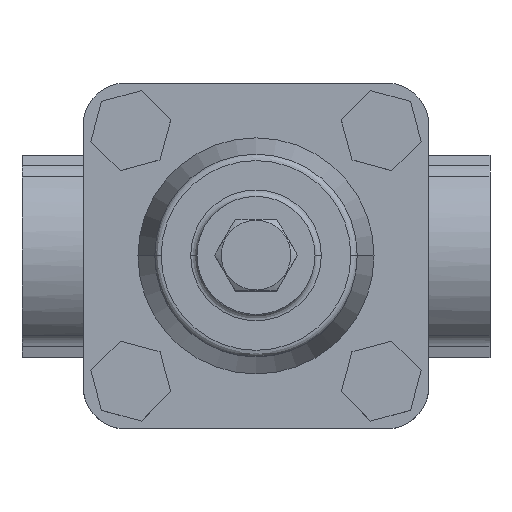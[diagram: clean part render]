
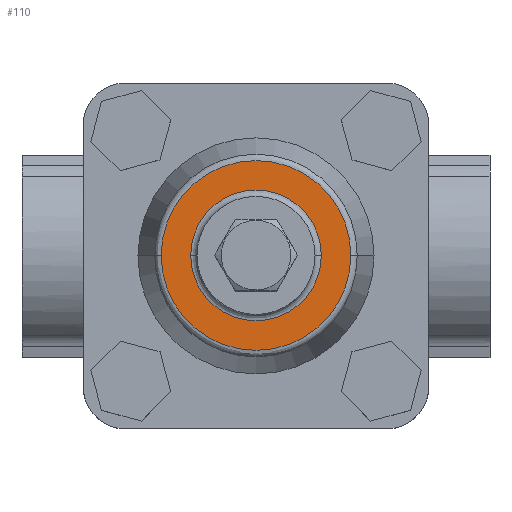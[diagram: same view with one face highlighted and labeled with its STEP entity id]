
A CAD part, top view. The second image highlights one B-rep face of the part: STEP entity #110.
In plain terms, the highlighted planar face has unit normal (0, 0, 1).
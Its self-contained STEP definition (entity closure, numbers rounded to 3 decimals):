
#110=ADVANCED_FACE('',(#903,#904),#902,.T.);
#902=PLANE('',#2073);
#903=FACE_OUTER_BOUND('',#2074,.T.);
#904=FACE_BOUND('',#2075,.T.);
#2070=CARTESIAN_POINT('',(-51.75,-46.765,128.2));
#2071=DIRECTION('',(0.,0.,1.));
#2072=DIRECTION('',(1.,0.,0.));
#2073=AXIS2_PLACEMENT_3D('',#2070,#2071,#2072);
#2074=EDGE_LOOP('',(#3105,#3106));
#2075=EDGE_LOOP('',(#3107,#3108));
#3105=ORIENTED_EDGE('',*,*,#3721,.T.);
#3106=ORIENTED_EDGE('',*,*,#3722,.T.);
#3107=ORIENTED_EDGE('',*,*,#3723,.F.);
#3108=ORIENTED_EDGE('',*,*,#3724,.F.);
#3721=EDGE_CURVE('',#5369,#5370,#5371,.T.);
#3722=EDGE_CURVE('',#5370,#5369,#5377,.T.);
#3723=EDGE_CURVE('',#5383,#5384,#5385,.T.);
#3724=EDGE_CURVE('',#5384,#5383,#5391,.T.);
#5369=VERTEX_POINT('',#7404);
#5370=VERTEX_POINT('',#7405);
#5371=CIRCLE('',#7409,22.5);
#5377=CIRCLE('',#7413,22.5);
#5383=VERTEX_POINT('',#7414);
#5384=VERTEX_POINT('',#7415);
#5385=CIRCLE('',#7419,15.5);
#5391=CIRCLE('',#7423,15.5);
#7404=CARTESIAN_POINT('',(22.5,0.,128.2));
#7405=CARTESIAN_POINT('',(-22.5,0.,128.2));
#7406=CARTESIAN_POINT('',(0.,0.,128.2));
#7407=DIRECTION('',(0.,0.,1.));
#7408=DIRECTION('',(1.,0.,0.));
#7409=AXIS2_PLACEMENT_3D('',#7406,#7407,#7408);
#7410=CARTESIAN_POINT('',(0.,0.,128.2));
#7411=DIRECTION('',(0.,0.,1.));
#7412=DIRECTION('',(1.,0.,0.));
#7413=AXIS2_PLACEMENT_3D('',#7410,#7411,#7412);
#7414=CARTESIAN_POINT('',(15.5,0.,128.2));
#7415=CARTESIAN_POINT('',(-15.5,0.,128.2));
#7416=CARTESIAN_POINT('',(0.,0.,128.2));
#7417=DIRECTION('',(0.,0.,1.));
#7418=DIRECTION('',(-1.,0.,0.));
#7419=AXIS2_PLACEMENT_3D('',#7416,#7417,#7418);
#7420=CARTESIAN_POINT('',(0.,0.,128.2));
#7421=DIRECTION('',(0.,0.,1.));
#7422=DIRECTION('',(-1.,0.,0.));
#7423=AXIS2_PLACEMENT_3D('',#7420,#7421,#7422);
